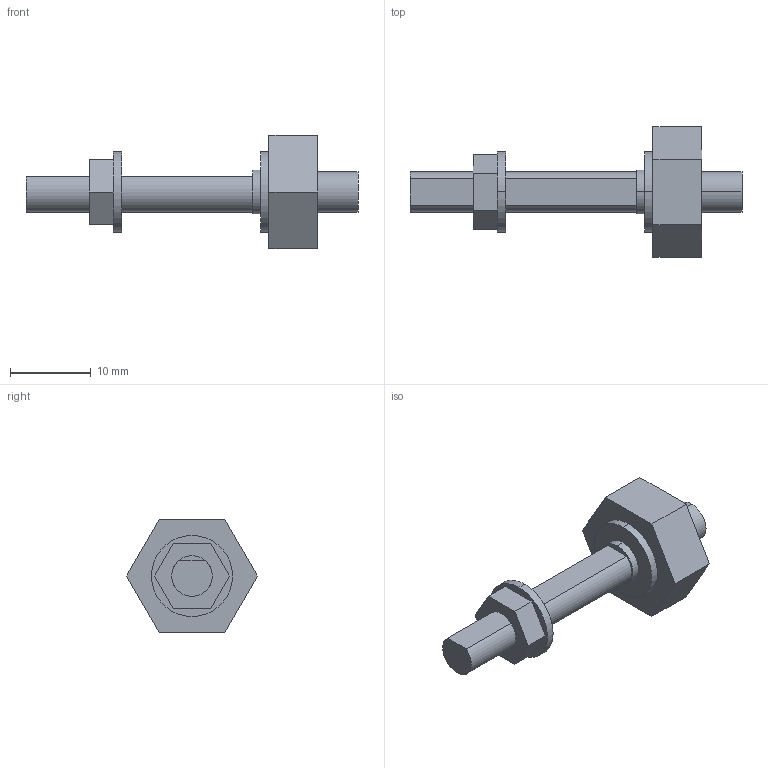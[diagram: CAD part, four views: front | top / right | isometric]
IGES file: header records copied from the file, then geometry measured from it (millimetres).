
Start section: SolidWorks IGES FILE using analytic representation for surfaces
Global section: file name: \\intra-srv04\開発データ\CAD_Data\CAD委員会\3D電子ｶﾀﾛｸﾞ\製品カタログ（新）\0_IGES\FV-BR1.IGS,41HSolidWorks 2004; native system: by SolidWorks Corporation; preprocessor: Version 5.3; author: mf1158; date: 050908.114236; units: millimetre
Bounding box: 41 x 16.17 x 14 mm (x, y, z)
Volume: 1896.7 mm3; surface area: 1555.9 mm2
Topology: 3 solids, 3 shells, 36 faces, 78 edges, 52 vertices
Faces by surface type: plane 23, revolution 13
